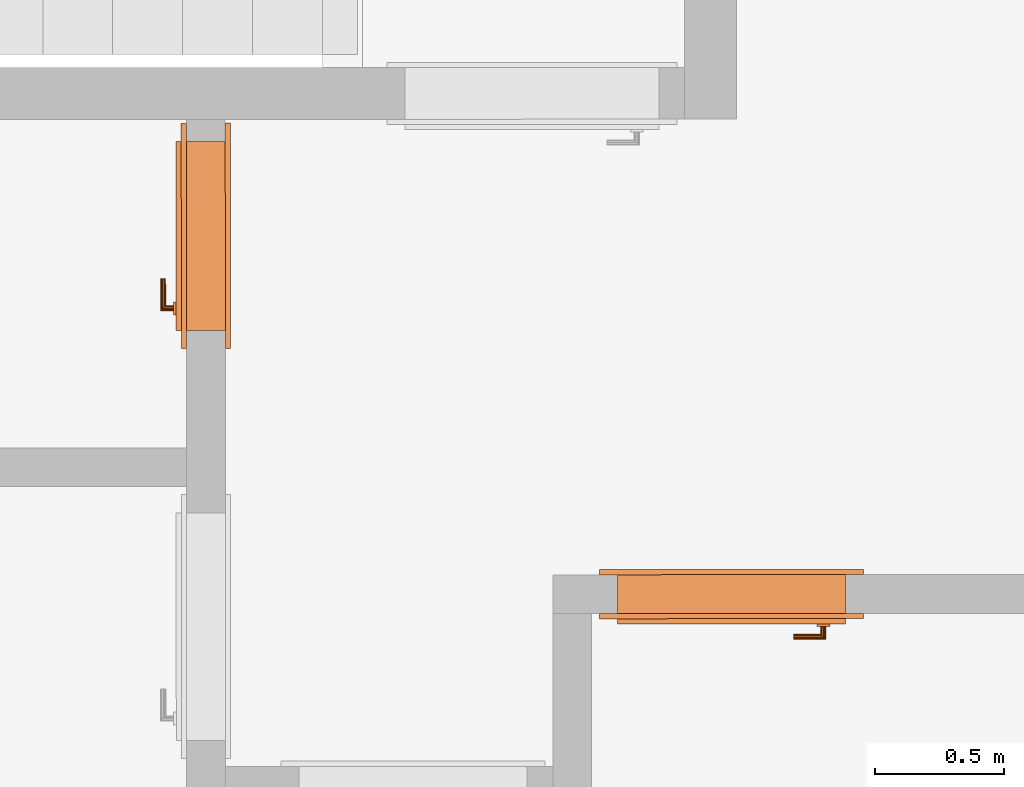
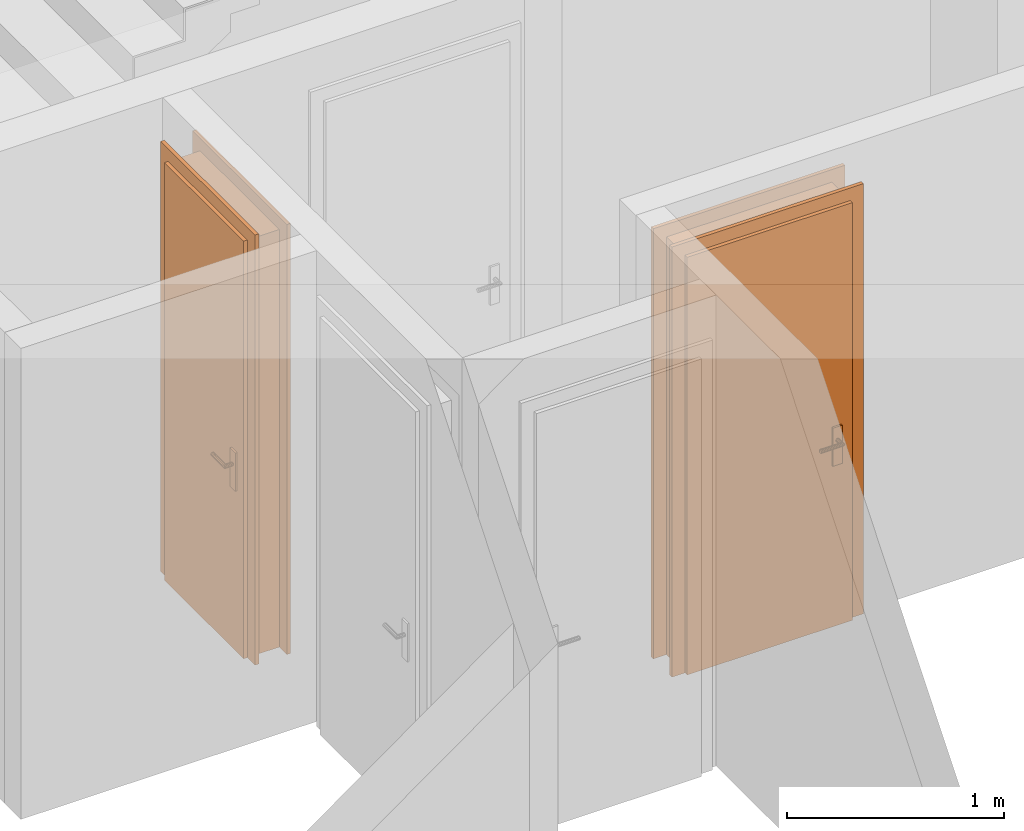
# One storey, part 5 of 9: 2 proxies.
"""IFC2X3 building model written with IfcOpenShell, lengths in metres."""

import ifcopenshell
import ifcopenshell.guid

model = None  # the IFC model being written
_history = None  # IfcOwnerHistory: only IFC2X3 demands one
_inside = {}  # id of a spatial element -> (the spatial element, [elements in it])
_under = {}  # id of a project, library or spatial element -> (it, [spatial elements below it])
_declared = {}  # id of a project -> (the project, [libraries it declares])
_typed = {}  # id of a type object -> (the type object, [elements of that type])
_made_of = {}  # id of a material, layer set ... -> (it, [elements and type objects made of it])


def new_model(schema):
    """Start an empty IFC model of exactly this schema.

    Asked for "IFC4X3", IfcOpenShell would pick the latest addendum, in which some entities
    have other attributes; the version numbers below select the first issue.
    IFC2X3 requires an IfcOwnerHistory on every rooted entity: one is made here for all.
    """
    global model, _history
    if schema == "IFC4X3":
        model = ifcopenshell.file(schema_version=(4, 3, 0, 0))
    else:
        model = ifcopenshell.file(schema=schema)
    _inside.clear()
    _under.clear()
    _declared.clear()
    _typed.clear()
    _made_of.clear()
    _history = None
    if model.schema == "IFC2X3":
        org = make("IfcOrganization", Name="unknown")
        user = make(
            "IfcPersonAndOrganization",
            ThePerson=make("IfcPerson", FamilyName="unknown"),
            TheOrganization=org,
        )
        app = make(
            "IfcApplication",
            ApplicationDeveloper=org,
            Version="unknown",
            ApplicationFullName="unknown",
            ApplicationIdentifier="unknown",
        )
        _history = make(
            "IfcOwnerHistory",
            OwningUser=user,
            OwningApplication=app,
            ChangeAction="ADDED",
            CreationDate=0,
        )
    return model


def make(cls, **values):
    """One entity of the class cls with the attributes given. An attribute that is None is left unset."""
    return model.create_entity(
        cls, **{name: value for name, value in values.items() if value is not None}
    )


def entity(cls, *values):
    """Any entity or typed value of the class cls, its attributes in the order of the schema. None: left unset."""
    e = model.create_entity(cls)
    for i, value in enumerate(values):
        if value is not None:
            e[i] = value
    return e


def rooted(cls, **values):
    """An entity with a GlobalId (a new one), such as an element, a storey or a relation."""
    return make(cls, GlobalId=ifcopenshell.guid.new(), OwnerHistory=_history, **values)


def si_unit(unit_type, name, prefix=None):
    """IfcSIUnit, for example si_unit("LENGTHUNIT", "METRE", prefix="MILLI")."""
    return make("IfcSIUnit", UnitType=unit_type, Prefix=prefix, Name=name)


def converted_unit(unit_type, name, factor, base, dimensions=None, offset=None):
    """IfcConversionBasedUnit, such as the inch: factor (a typed value) times the base unit."""
    return make(
        "IfcConversionBasedUnit"
        if offset is None
        else "IfcConversionBasedUnitWithOffset",
        ConversionOffset=offset,
        Dimensions=None
        if dimensions is None
        else entity("IfcDimensionalExponents", *dimensions),
        UnitType=unit_type,
        Name=name,
        ConversionFactor=make(
            "IfcMeasureWithUnit", ValueComponent=factor, UnitComponent=base
        ),
    )


def derived_unit(unit_type, elements):
    """IfcDerivedUnit: a product of units, each with its exponent."""
    return make(
        "IfcDerivedUnit",
        Elements=[
            make("IfcDerivedUnitElement", Unit=unit, Exponent=power)
            for unit, power in elements
        ],
        UnitType=unit_type,
    )


def assignment(units):
    """IfcUnitAssignment: the units of a project."""
    return None if units is None else make("IfcUnitAssignment", Units=units)


def point(xyz):
    """IfcCartesianPoint."""
    return None if xyz is None else make("IfcCartesianPoint", Coordinates=xyz)


def direction(xyz):
    """IfcDirection."""
    return None if xyz is None else make("IfcDirection", DirectionRatios=xyz)


def frame(location, z_axis=None, x_axis=None):
    """IfcAxis2Placement3D, a coordinate frame: its origin and axes. An axis left out is left unset."""
    return make(
        "IfcAxis2Placement3D",
        Location=point(location),
        Axis=direction(z_axis),
        RefDirection=direction(x_axis),
    )


def origin():
    """The frame at (0, 0, 0) with its axes left unset."""
    return frame((0.0, 0.0, 0.0))


def origin_with_axes():
    """The frame at (0, 0, 0) with the z axis (0, 0, 1) and the x axis (1, 0, 0) written out."""
    return frame((0.0, 0.0, 0.0), z_axis=(0.0, 0.0, 1.0), x_axis=(1.0, 0.0, 0.0))


def place(relative_to, where):
    """IfcLocalPlacement: puts the frame where relative to a parent placement (None: the world)."""
    return make(
        "IfcLocalPlacement", PlacementRelTo=relative_to, RelativePlacement=where
    )


def context(
    kind, dimensions, precision=None, world=None, true_north=None, identifier=None
):
    """IfcGeometricRepresentationContext, for example the 3D "Model" context."""
    return make(
        "IfcGeometricRepresentationContext",
        ContextIdentifier=identifier,
        ContextType=kind,
        CoordinateSpaceDimension=dimensions,
        Precision=precision,
        WorldCoordinateSystem=world,
        TrueNorth=true_north,
    )


def subcontext(parent, identifier, kind, view, scale=None):
    """IfcGeometricRepresentationSubContext, for example "Body" below "Model"."""
    return make(
        "IfcGeometricRepresentationSubContext",
        ContextIdentifier=identifier,
        ContextType=kind,
        ParentContext=parent,
        TargetScale=scale,
        TargetView=view,
    )


def project(units=None, contexts=None):
    """IfcProject with its units and contexts."""
    return rooted(
        "IfcProject",
        Name="project",
        RepresentationContexts=contexts,
        UnitsInContext=assignment(units),
    )


def spatial(cls, under=None, at=None, **own):
    """A site, building, storey or space (cls), placed at a placement, below another one or the project."""
    s = rooted(cls, ObjectPlacement=at, **own)
    if under is not None:
        _under.setdefault(under.id(), (under, []))[1].append(s)
    return s


def faces_of(points, faces, orient=None, outer=None):
    """IfcFace entities. A face is a list of loops; a loop is a list of indices into points, from 0.

    orient and outer hold one flag for each loop. By default every Orientation is true, the
    first loop of a face is its IfcFaceOuterBound and the others are IfcFaceBound.
    """
    made = []
    for i, loops in enumerate(faces):
        bounds = []
        for j, loop in enumerate(loops):
            is_outer = j == 0 if outer is None else outer[i][j]
            bounds.append(
                make(
                    "IfcFaceOuterBound" if is_outer else "IfcFaceBound",
                    Bound=make("IfcPolyLoop", Polygon=[points[k] for k in loop]),
                    Orientation=True if orient is None else orient[i][j],
                )
            )
        made.append(make("IfcFace", Bounds=bounds))
    return made


def faceted_brep(points, faces, orient=None, outer=None, voids=None):
    """IfcFacetedBrep: a solid bounded by flat faces; with voids (closed shells), ...WithVoids."""
    shared = [point(p) for p in points]
    hull = make("IfcClosedShell", CfsFaces=faces_of(shared, faces, orient, outer))
    if voids is None:
        return make("IfcFacetedBrep", Outer=hull)
    return make(
        "IfcFacetedBrepWithVoids",
        Outer=hull,
        Voids=[
            make(cls, CfsFaces=faces_of(shared, fs, o, b)) for cls, fs, o, b in voids
        ],
    )


def shape(context_of_items, identifier, shape_type, items):
    """IfcShapeRepresentation: the items that make up one representation, for example the "Body"."""
    return make(
        "IfcShapeRepresentation",
        ContextOfItems=context_of_items,
        RepresentationIdentifier=identifier,
        RepresentationType=shape_type,
        Items=items,
    )


def source(mapping_origin, context_of_items, identifier, shape_type, items):
    """IfcRepresentationMap: a shape defined once, which mapped items show again and again."""
    return make(
        "IfcRepresentationMap",
        MappingOrigin=mapping_origin,
        MappedRepresentation=shape(context_of_items, identifier, shape_type, items),
    )


def transform(
    local_origin,
    x_axis=None,
    y_axis=None,
    z_axis=None,
    scale=None,
    scale2=None,
    scale3=None,
    uniform=True,
):
    """IfcCartesianTransformationOperator3D, or its non-uniform kind. x_axis, y_axis, z_axis: its Axis1, 2, 3."""
    if uniform:
        return make(
            "IfcCartesianTransformationOperator3D",
            Axis1=direction(x_axis),
            Axis2=direction(y_axis),
            LocalOrigin=point(local_origin),
            Scale=scale,
            Axis3=direction(z_axis),
        )
    return make(
        "IfcCartesianTransformationOperator3DnonUniform",
        Axis1=direction(x_axis),
        Axis2=direction(y_axis),
        LocalOrigin=point(local_origin),
        Scale=scale,
        Axis3=direction(z_axis),
        Scale2=scale2,
        Scale3=scale3,
    )


def mapped(mapping_source, mapping_target):
    """IfcMappedItem: shows the shape of a source again, moved by a transform."""
    return make(
        "IfcMappedItem", MappingSource=mapping_source, MappingTarget=mapping_target
    )


def made_of(thing, what):
    """Note that an element or type object is made of a material, layer set ...; save() writes the relation."""
    if what is not None:
        _made_of.setdefault(what.id(), (what, []))[1].append(thing)
    return thing


def element(
    cls,
    number,
    at=None,
    inside=None,
    cuts=None,
    type_object=None,
    material=None,
    context=None,
    identifier="Body",
    shape_type=None,
    held_by="IfcProductDefinitionShape",
    body=None,
    shapes=None,
    **own,
):
    """One element of the class cls, such as IfcWall. Its Tag is "e" and its number.

    at: its placement. inside: the storey or other place that contains it. cuts: it is an
    opening in that element (IfcRelVoidsElement). A single representation is given by context,
    identifier, shape_type and body (its items); several are given by shapes. held_by: the class
    of the entity that holds the representations. save() writes the other relations.
    """
    e = rooted(cls, Tag="e%d" % number, ObjectPlacement=at, **own)
    if body is not None:
        shapes = [shape(context, identifier, shape_type, body)]
    if shapes is not None:
        e.Representation = make(held_by, Representations=shapes)
    if inside is not None:
        _inside.setdefault(inside.id(), (inside, []))[1].append(e)
    if cuts is not None:
        rooted(
            "IfcRelVoidsElement", RelatingBuildingElement=cuts, RelatedOpeningElement=e
        )
    if type_object is not None:
        _typed.setdefault(type_object.id(), (type_object, []))[1].append(e)
    return made_of(e, material)


def aggregate(whole, parts):
    """IfcRelAggregates: a whole, such as a stair, and the parts it consists of."""
    return rooted("IfcRelAggregates", RelatingObject=whole, RelatedObjects=parts)


def save(model, path):
    """Write the relations noted so far, then the file.

    IfcRelAggregates (storeys below a building ...), IfcRelContainedInSpatialStructure (elements
    in a storey), IfcRelDefinesByType, IfcRelAssociatesMaterial and IfcRelDeclares: one each for
    every whole, place, type object, material and project.
    """
    for whole, parts in _under.values():
        aggregate(whole, parts)
    for where, things in _inside.values():
        rooted(
            "IfcRelContainedInSpatialStructure",
            RelatedElements=things,
            RelatingStructure=where,
        )
    for kind, things in _typed.values():
        rooted("IfcRelDefinesByType", RelatedObjects=things, RelatingType=kind)
    for what, things in _made_of.values():
        rooted("IfcRelAssociatesMaterial", RelatedObjects=things, RelatingMaterial=what)
    for by, libraries in _declared.values():
        rooted("IfcRelDeclares", RelatingContext=by, RelatedDefinitions=libraries)
    model.write(path)


model = new_model("IFC2X3")

# Units and contexts
model_context = context("Model", 3, precision=1e-05, world=origin(), true_north=direction((0.772621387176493, -0.634867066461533)))
body_context = subcontext(model_context, "Body", "Model", "MODEL_VIEW")
ifc_project = project(units=[si_unit("LENGTHUNIT", "METRE"), si_unit("AREAUNIT", "SQUARE_METRE"), si_unit("VOLUMEUNIT", "CUBIC_METRE"), si_unit("MASSUNIT", "GRAM", prefix="KILO"), converted_unit("PLANEANGLEUNIT", "DEGREE", entity("IfcPlaneAngleMeasure", 0.0174532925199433), si_unit("PLANEANGLEUNIT", "RADIAN"), dimensions=[0, 0, 0, 0, 0, 0, 0]), derived_unit("THERMALTRANSMITTANCEUNIT", [(si_unit("POWERUNIT", "WATT"), 1), (si_unit("THERMODYNAMICTEMPERATUREUNIT", "KELVIN"), -1), (si_unit("LENGTHUNIT", "METRE"), -2)]), derived_unit("VOLUMETRICFLOWRATEUNIT", [(si_unit("LENGTHUNIT", "METRE"), 3), (converted_unit("TIMEUNIT", "hour", entity("IfcTimeMeasure", 3600.0), si_unit("TIMEUNIT", "SECOND"), dimensions=[0, 0, 1, 0, 0, 0, 0]), -1), (si_unit("LENGTHUNIT", "METRE"), -1)])], contexts=[model_context])

# Site, building, storey
site_placement = place(None, origin())
site = spatial("IfcSite", under=ifc_project, at=site_placement, Name="Modelle auf dem Nullpunkt", CompositionType="ELEMENT")
building_placement = place(site_placement, origin())
building = spatial("IfcBuilding", under=site, at=building_placement, Name="I", CompositionType="ELEMENT")
storey_placement = place(building_placement, origin())
storey = spatial("IfcBuildingStorey", under=building, at=storey_placement, Name="EG", CompositionType="ELEMENT", Elevation=0.0)

# Proxies
shared_shape_1 = source(origin_with_axes(), body_context, "Body", "Brep", [
    faceted_brep([(0.0700000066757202, 0.190000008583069, 2.35), (0.0700000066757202, 0.190000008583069, 0.0), (0.0900000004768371, 0.190000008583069, 0.0), (0.0900000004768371, 0.190000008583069, 2.35), (0.0700000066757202, 0.0, 0.0), (0.0700000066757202, 0.0, 2.35), (0.0900000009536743, 0.0, 2.35), (0.0900000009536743, 0.0, 0.0)], [[[0, 1, 2, 3]], [[4, 5, 6, 7]], [[1, 0, 5, 4]], [[2, 1, 4, 7]], [[3, 2, 7, 6]], [[0, 3, 6, 5]]], orient=[[False], [False], [False], [False], [False], [False]]),
    faceted_brep([(0.0700000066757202, 0.190000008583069, 2.42), (0.0, 0.190000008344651, 2.42), (0.0, 0.190000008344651, 0.0), (0.0700000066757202, 0.190000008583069, 0.0), (0.0700000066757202, 0.170000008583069, 0.0), (0.0, 0.170000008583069, 0.0), (0.0, 0.170000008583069, 2.42), (0.0700000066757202, 0.170000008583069, 2.42)], [[[0, 1, 2, 3]], [[4, 5, 6, 7]], [[3, 4, 7, 0]], [[2, 5, 4, 3]], [[1, 6, 5, 2]], [[0, 7, 6, 1]]], orient=[[False], [False], [False], [False], [False], [False]]),
    faceted_brep([(0.0700000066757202, 0.02, 2.42), (0.0, 0.0199999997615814, 2.42), (0.0, 0.0199999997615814, 0.0), (0.0700000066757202, 0.02, 0.0), (0.0700000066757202, 0.0, 0.0), (0.0, 0.0, 0.0), (0.0, 0.0, 2.42), (0.0700000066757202, 0.0, 2.42)], [[[0, 1, 2, 3]], [[4, 5, 6, 7]], [[3, 4, 7, 0]], [[2, 5, 4, 3]], [[1, 6, 5, 2]], [[0, 7, 6, 1]]], orient=[[False], [False], [False], [False], [False], [False]]),
    faceted_brep([(0.930000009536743, 0.190000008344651, 2.35), (0.930000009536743, 0.190000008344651, 0.0), (0.950000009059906, 0.190000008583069, 0.0), (0.950000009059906, 0.190000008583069, 2.35), (0.930000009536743, 0.0, 0.0), (0.930000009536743, 0.0, 2.35), (0.950000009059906, 0.0, 2.35), (0.950000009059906, 0.0, 0.0)], [[[0, 1, 2, 3]], [[4, 5, 6, 7]], [[1, 0, 5, 4]], [[2, 1, 4, 7]], [[3, 2, 7, 6]], [[0, 3, 6, 5]]], orient=[[False], [False], [False], [False], [False], [False]]),
    faceted_brep([(0.950000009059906, 0.190000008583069, 2.42), (0.950000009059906, 0.190000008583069, 0.0), (1.02000000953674, 0.190000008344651, 0.0), (1.02000000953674, 0.190000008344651, 2.42), (0.950000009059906, 0.170000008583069, 0.0), (0.950000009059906, 0.170000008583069, 2.42), (1.02000000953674, 0.170000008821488, 2.42), (1.02000000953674, 0.170000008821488, 0.0)], [[[0, 1, 2, 3]], [[4, 5, 6, 7]], [[1, 0, 5, 4]], [[2, 1, 4, 7]], [[3, 2, 7, 6]], [[0, 3, 6, 5]]], orient=[[False], [False], [False], [False], [False], [False]]),
    faceted_brep([(0.950000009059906, 0.0199999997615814, 2.42), (0.950000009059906, 0.0199999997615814, 0.0), (1.02000000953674, 0.0199999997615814, 0.0), (1.02000000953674, 0.0199999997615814, 2.42), (0.950000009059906, 0.0, 0.0), (0.950000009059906, 0.0, 2.42), (1.02000000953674, 0.0, 2.42), (1.02000000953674, 0.0, 0.0)], [[[0, 1, 2, 3]], [[4, 5, 6, 7]], [[1, 0, 5, 4]], [[2, 1, 4, 7]], [[3, 2, 7, 6]], [[0, 3, 6, 5]]], orient=[[False], [False], [False], [False], [False], [False]]),
    faceted_brep([(0.0900000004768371, 0.190000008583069, 2.35), (0.0900000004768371, 0.190000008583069, 2.33), (0.930000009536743, 0.190000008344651, 2.33), (0.930000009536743, 0.190000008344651, 2.35), (0.0900000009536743, 0.0, 2.33), (0.0900000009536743, 0.0, 2.35), (0.930000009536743, 0.0, 2.35), (0.930000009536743, 0.0, 2.33)], [[[0, 1, 2, 3]], [[4, 5, 6, 7]], [[1, 0, 5, 4]], [[2, 1, 4, 7]], [[3, 2, 7, 6]], [[0, 3, 6, 5]]], orient=[[False], [False], [False], [False], [False], [False]]),
    faceted_brep([(0.0700000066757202, 0.190000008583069, 2.42), (0.0700000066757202, 0.190000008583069, 2.35), (0.950000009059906, 0.190000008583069, 2.35), (0.950000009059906, 0.190000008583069, 2.42), (0.0700000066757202, 0.170000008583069, 2.35), (0.0700000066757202, 0.170000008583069, 2.42), (0.950000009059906, 0.170000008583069, 2.42), (0.950000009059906, 0.170000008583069, 2.35)], [[[0, 1, 2, 3]], [[4, 5, 6, 7]], [[1, 0, 5, 4]], [[2, 1, 4, 7]], [[3, 2, 7, 6]], [[0, 3, 6, 5]]], orient=[[False], [False], [False], [False], [False], [False]]),
    faceted_brep([(0.0700000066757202, 0.02, 2.42), (0.0700000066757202, 0.02, 2.35), (0.950000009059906, 0.0199999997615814, 2.35), (0.950000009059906, 0.0199999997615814, 2.42), (0.0700000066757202, 0.0, 2.35), (0.0700000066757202, 0.0, 2.42), (0.950000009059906, 0.0, 2.42), (0.950000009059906, 0.0, 2.35)], [[[0, 1, 2, 3]], [[4, 5, 6, 7]], [[1, 0, 5, 4]], [[2, 1, 4, 7]], [[3, 2, 7, 6]], [[0, 3, 6, 5]]], orient=[[False], [False], [False], [False], [False], [False]]),
    faceted_brep([(0.0700000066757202, 0.210000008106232, 2.35), (0.0700000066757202, 0.210000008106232, 0.0), (0.950000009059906, 0.210000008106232, 0.0), (0.950000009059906, 0.210000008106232, 2.35), (0.0700000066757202, 0.170000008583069, 0.0), (0.0700000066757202, 0.170000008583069, 2.35), (0.950000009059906, 0.170000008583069, 2.35), (0.950000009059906, 0.170000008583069, 0.0)], [[[0, 1, 2, 3]], [[4, 5, 6, 7]], [[1, 0, 5, 4]], [[2, 1, 4, 7]], [[3, 2, 7, 6]], [[0, 3, 6, 5]]], orient=[[False], [False], [False], [False], [False], [False]]),
    faceted_brep([(0.130000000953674, 0.170000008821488, 1.125), (0.130000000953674, 0.170000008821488, 0.91), (0.180000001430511, 0.170000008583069, 0.91), (0.180000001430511, 0.170000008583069, 1.125), (0.130000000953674, 0.160000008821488, 0.91), (0.130000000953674, 0.160000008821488, 1.125), (0.180000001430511, 0.160000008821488, 1.125), (0.180000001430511, 0.160000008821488, 0.91)], [[[0, 1, 2, 3]], [[4, 5, 6, 7]], [[1, 0, 5, 4]], [[2, 1, 4, 7]], [[3, 2, 7, 6]], [[0, 3, 6, 5]]], orient=[[False], [False], [False], [False], [False], [False]]),
    faceted_brep([(0.155000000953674, 0.160000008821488, 1.06), (0.150000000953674, 0.160000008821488, 1.05866025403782), (0.14633974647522, 0.160000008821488, 1.055), (0.145000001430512, 0.160000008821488, 1.05), (0.14633974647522, 0.160000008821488, 1.045), (0.150000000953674, 0.160000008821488, 1.04133974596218), (0.155000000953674, 0.160000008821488, 1.04), (0.160000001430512, 0.160000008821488, 1.04133974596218), (0.163660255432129, 0.160000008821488, 1.045), (0.165000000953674, 0.160000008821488, 1.05), (0.163660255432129, 0.160000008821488, 1.055), (0.160000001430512, 0.160000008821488, 1.05866025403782), (0.155000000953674, 0.120000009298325, 1.06), (0.150000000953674, 0.115000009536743, 1.05866025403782), (0.146339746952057, 0.111339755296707, 1.055), (0.145000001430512, 0.110000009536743, 1.05), (0.146339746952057, 0.111339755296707, 1.045), (0.150000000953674, 0.115000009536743, 1.04133974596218), (0.155000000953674, 0.120000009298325, 1.04), (0.160000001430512, 0.125000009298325, 1.04133974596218), (0.163660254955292, 0.128660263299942, 1.045), (0.165000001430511, 0.130000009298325, 1.05), (0.163660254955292, 0.128660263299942, 1.055), (0.160000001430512, 0.125000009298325, 1.05866025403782), (0.270000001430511, 0.120000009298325, 1.06), (0.270000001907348, 0.125000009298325, 1.05866025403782), (0.270000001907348, 0.128660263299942, 1.055), (0.270000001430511, 0.130000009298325, 1.05), (0.270000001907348, 0.128660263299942, 1.045), (0.270000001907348, 0.125000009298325, 1.04133974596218), (0.270000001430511, 0.120000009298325, 1.04), (0.270000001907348, 0.115000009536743, 1.04133974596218), (0.270000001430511, 0.111339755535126, 1.045), (0.270000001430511, 0.110000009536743, 1.05), (0.270000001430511, 0.111339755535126, 1.055), (0.270000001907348, 0.115000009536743, 1.05866025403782)], [[[0, 1, 2, 3, 4, 5, 6, 7, 8, 9, 10, 11]], [[0, 12, 13, 1]], [[1, 13, 14, 2]], [[2, 14, 15, 3]], [[3, 15, 16, 4]], [[4, 16, 17, 5]], [[5, 17, 18, 6]], [[6, 18, 19, 7]], [[7, 19, 20, 8]], [[8, 20, 21, 9]], [[9, 21, 22, 10]], [[10, 22, 23, 11]], [[11, 23, 12, 0]], [[24, 25, 26, 27, 28, 29, 30, 31, 32, 33, 34, 35]], [[12, 24, 35, 13]], [[13, 35, 34, 14]], [[14, 34, 33, 15]], [[15, 33, 32, 16]], [[16, 32, 31, 17]], [[17, 31, 30, 18]], [[18, 30, 29, 19]], [[19, 29, 28, 20]], [[20, 28, 27, 21]], [[21, 27, 26, 22]], [[22, 26, 25, 23]], [[23, 25, 24, 12]]], orient=[[False], [False], [False], [False], [False], [False], [False], [False], [False], [False], [False], [False], [False], [False], [False], [False], [False], [False], [False], [False], [False], [False], [False], [False], [False], [False]]),
    faceted_brep([(0.130000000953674, 0.210000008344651, 1.125), (0.180000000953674, 0.210000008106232, 1.125), (0.180000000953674, 0.210000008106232, 0.91), (0.130000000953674, 0.210000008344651, 0.91), (0.130000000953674, 0.220000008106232, 0.91), (0.180000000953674, 0.220000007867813, 0.91), (0.180000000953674, 0.220000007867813, 1.125), (0.130000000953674, 0.220000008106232, 1.125)], [[[0, 1, 2, 3]], [[4, 5, 6, 7]], [[3, 4, 7, 0]], [[2, 5, 4, 3]], [[1, 6, 5, 2]], [[0, 7, 6, 1]]], orient=[[False], [False], [False], [False], [False], [False]]),
    faceted_brep([(0.155000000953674, 0.220000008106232, 1.06), (0.160000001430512, 0.220000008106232, 1.05866025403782), (0.163660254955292, 0.220000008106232, 1.055), (0.165000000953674, 0.220000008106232, 1.05), (0.163660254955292, 0.220000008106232, 1.045), (0.160000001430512, 0.220000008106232, 1.04133974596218), (0.155000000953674, 0.220000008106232, 1.04), (0.150000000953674, 0.220000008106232, 1.04133974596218), (0.14633974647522, 0.220000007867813, 1.045), (0.145000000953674, 0.220000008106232, 1.05), (0.14633974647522, 0.220000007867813, 1.055), (0.150000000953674, 0.220000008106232, 1.05866025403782), (0.150000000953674, 0.265000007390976, 1.05866025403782), (0.155000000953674, 0.260000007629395, 1.06), (0.14633974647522, 0.268660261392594, 1.055), (0.145000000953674, 0.270000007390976, 1.05), (0.14633974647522, 0.268660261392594, 1.045), (0.150000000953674, 0.265000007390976, 1.04133974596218), (0.155000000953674, 0.260000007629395, 1.04), (0.160000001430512, 0.255000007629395, 1.04133974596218), (0.163660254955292, 0.251339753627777, 1.045), (0.165000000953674, 0.250000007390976, 1.05), (0.163660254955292, 0.251339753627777, 1.055), (0.160000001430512, 0.255000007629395, 1.05866025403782), (0.270000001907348, 0.260000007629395, 1.06), (0.270000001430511, 0.265000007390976, 1.05866025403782), (0.270000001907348, 0.268660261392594, 1.055), (0.270000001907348, 0.270000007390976, 1.05), (0.270000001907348, 0.268660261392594, 1.045), (0.270000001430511, 0.265000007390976, 1.04133974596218), (0.270000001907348, 0.260000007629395, 1.04), (0.270000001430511, 0.255000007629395, 1.04133974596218), (0.270000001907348, 0.251339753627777, 1.045), (0.270000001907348, 0.250000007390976, 1.05), (0.270000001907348, 0.251339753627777, 1.055), (0.270000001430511, 0.255000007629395, 1.05866025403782)], [[[0, 1, 2, 3, 4, 5, 6, 7, 8, 9, 10, 11]], [[0, 11, 12, 13]], [[11, 10, 14, 12]], [[10, 9, 15, 14]], [[9, 8, 16, 15]], [[8, 7, 17, 16]], [[7, 6, 18, 17]], [[6, 5, 19, 18]], [[5, 4, 20, 19]], [[4, 3, 21, 20]], [[3, 2, 22, 21]], [[2, 1, 23, 22]], [[1, 0, 13, 23]], [[24, 25, 26, 27, 28, 29, 30, 31, 32, 33, 34, 35]], [[13, 12, 25, 24]], [[12, 14, 26, 25]], [[14, 15, 27, 26]], [[15, 16, 28, 27]], [[16, 17, 29, 28]], [[17, 18, 30, 29]], [[18, 19, 31, 30]], [[19, 20, 32, 31]], [[20, 21, 33, 32]], [[21, 22, 34, 33]], [[22, 23, 35, 34]], [[23, 13, 24, 35]]], orient=[[False], [False], [False], [False], [False], [False], [False], [False], [False], [False], [False], [False], [False], [False], [False], [False], [False], [False], [False], [False], [False], [False], [False], [False], [False], [False]]),
])
proxy_1_placement = place(storey_placement, frame((34.7536193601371, -2.59148210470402, 435.89), z_axis=(0.0, 0.0, 1.0), x_axis=(-0.999999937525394, -0.000353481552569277, 0.0)))
element("IfcBuildingElementProxy", 1, at=proxy_1_placement, inside=storey, Name="1flg Weiß UZ außen", context=body_context, shape_type="MappedRepresentation", body=[
    mapped(shared_shape_1, transform((0.0, 0.0, 0.0), x_axis=(1.0, 0.0, 0.0), y_axis=(0.0, 1.0, 0.0), z_axis=(0.0, 0.0, 1.0), scale=1.0)),
])
shared_shape_2 = source(origin_with_axes(), body_context, "Body", "Brep", [
    faceted_brep([(0.0700000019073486, 0.190000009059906, 2.35), (0.0700000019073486, 0.190000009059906, 0.0), (0.0900000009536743, 0.190000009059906, 0.0), (0.0900000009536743, 0.190000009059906, 2.35), (0.0700000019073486, 0.0, 0.0), (0.0700000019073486, 0.0, 2.35), (0.0900000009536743, 0.0, 2.35), (0.0900000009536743, 0.0, 0.0)], [[[0, 1, 2, 3]], [[4, 5, 6, 7]], [[1, 0, 5, 4]], [[2, 1, 4, 7]], [[3, 2, 7, 6]], [[0, 3, 6, 5]]], orient=[[False], [False], [False], [False], [False], [False]]),
    faceted_brep([(0.0700000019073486, 0.190000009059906, 2.42), (0.0, 0.190000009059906, 2.42), (0.0, 0.190000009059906, 0.0), (0.0700000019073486, 0.190000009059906, 0.0), (0.0700000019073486, 0.170000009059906, 0.0), (0.0, 0.170000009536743, 0.0), (0.0, 0.170000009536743, 2.42), (0.0700000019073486, 0.170000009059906, 2.42)], [[[0, 1, 2, 3]], [[4, 5, 6, 7]], [[3, 4, 7, 0]], [[2, 5, 4, 3]], [[1, 6, 5, 2]], [[0, 7, 6, 1]]], orient=[[False], [False], [False], [False], [False], [False]]),
    faceted_brep([(0.0700000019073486, 0.0199999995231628, 2.42), (0.0, 0.02, 2.42), (0.0, 0.02, 0.0), (0.0700000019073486, 0.0199999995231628, 0.0), (0.0700000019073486, 0.0, 0.0), (0.0, 0.0, 0.0), (0.0, 0.0, 2.42), (0.0700000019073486, 0.0, 2.42)], [[[0, 1, 2, 3]], [[4, 5, 6, 7]], [[3, 4, 7, 0]], [[2, 5, 4, 3]], [[1, 6, 5, 2]], [[0, 7, 6, 1]]], orient=[[False], [False], [False], [False], [False], [False]]),
    faceted_brep([(0.780000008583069, 0.190000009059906, 2.35), (0.780000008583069, 0.190000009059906, 0.0), (0.800000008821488, 0.190000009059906, 0.0), (0.800000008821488, 0.190000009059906, 2.35), (0.780000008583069, 0.0, 0.0), (0.780000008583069, 0.0, 2.35), (0.800000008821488, 0.0, 2.35), (0.800000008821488, 0.0, 0.0)], [[[0, 1, 2, 3]], [[4, 5, 6, 7]], [[1, 0, 5, 4]], [[2, 1, 4, 7]], [[3, 2, 7, 6]], [[0, 3, 6, 5]]], orient=[[False], [False], [False], [False], [False], [False]]),
    faceted_brep([(0.800000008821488, 0.190000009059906, 2.42), (0.800000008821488, 0.190000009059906, 0.0), (0.870000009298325, 0.190000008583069, 0.0), (0.870000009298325, 0.190000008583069, 2.42), (0.800000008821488, 0.170000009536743, 0.0), (0.800000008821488, 0.170000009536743, 2.42), (0.870000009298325, 0.170000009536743, 2.42), (0.870000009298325, 0.170000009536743, 0.0)], [[[0, 1, 2, 3]], [[4, 5, 6, 7]], [[1, 0, 5, 4]], [[2, 1, 4, 7]], [[3, 2, 7, 6]], [[0, 3, 6, 5]]], orient=[[False], [False], [False], [False], [False], [False]]),
    faceted_brep([(0.800000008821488, 0.0199999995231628, 2.42), (0.800000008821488, 0.0199999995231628, 0.0), (0.870000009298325, 0.0199999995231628, 0.0), (0.870000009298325, 0.0199999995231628, 2.42), (0.800000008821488, 0.0, 0.0), (0.800000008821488, 0.0, 2.42), (0.870000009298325, 0.0, 2.42), (0.870000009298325, 0.0, 0.0)], [[[0, 1, 2, 3]], [[4, 5, 6, 7]], [[1, 0, 5, 4]], [[2, 1, 4, 7]], [[3, 2, 7, 6]], [[0, 3, 6, 5]]], orient=[[False], [False], [False], [False], [False], [False]]),
    faceted_brep([(0.0900000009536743, 0.190000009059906, 2.35), (0.0900000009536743, 0.190000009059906, 2.33), (0.780000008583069, 0.190000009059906, 2.33), (0.780000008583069, 0.190000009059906, 2.35), (0.0900000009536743, 0.0, 2.33), (0.0900000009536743, 0.0, 2.35), (0.780000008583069, 0.0, 2.35), (0.780000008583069, 0.0, 2.33)], [[[0, 1, 2, 3]], [[4, 5, 6, 7]], [[1, 0, 5, 4]], [[2, 1, 4, 7]], [[3, 2, 7, 6]], [[0, 3, 6, 5]]], orient=[[False], [False], [False], [False], [False], [False]]),
    faceted_brep([(0.0700000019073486, 0.190000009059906, 2.42), (0.0700000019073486, 0.190000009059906, 2.35), (0.800000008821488, 0.190000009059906, 2.35), (0.800000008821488, 0.190000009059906, 2.42), (0.0700000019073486, 0.170000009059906, 2.35), (0.0700000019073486, 0.170000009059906, 2.42), (0.800000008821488, 0.170000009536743, 2.42), (0.800000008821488, 0.170000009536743, 2.35)], [[[0, 1, 2, 3]], [[4, 5, 6, 7]], [[1, 0, 5, 4]], [[2, 1, 4, 7]], [[3, 2, 7, 6]], [[0, 3, 6, 5]]], orient=[[False], [False], [False], [False], [False], [False]]),
    faceted_brep([(0.0700000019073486, 0.0199999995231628, 2.42), (0.0700000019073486, 0.0199999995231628, 2.35), (0.800000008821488, 0.0199999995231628, 2.35), (0.800000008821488, 0.0199999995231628, 2.42), (0.0700000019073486, 0.0, 2.35), (0.0700000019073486, 0.0, 2.42), (0.800000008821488, 0.0, 2.42), (0.800000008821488, 0.0, 2.35)], [[[0, 1, 2, 3]], [[4, 5, 6, 7]], [[1, 0, 5, 4]], [[2, 1, 4, 7]], [[3, 2, 7, 6]], [[0, 3, 6, 5]]], orient=[[False], [False], [False], [False], [False], [False]]),
    faceted_brep([(0.0700000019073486, 0.210000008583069, 2.35), (0.0700000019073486, 0.210000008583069, 0.0), (0.800000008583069, 0.210000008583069, 0.0), (0.800000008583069, 0.210000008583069, 2.35), (0.0700000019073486, 0.170000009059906, 0.0), (0.0700000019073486, 0.170000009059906, 2.35), (0.800000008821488, 0.170000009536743, 2.35), (0.800000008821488, 0.170000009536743, 0.0)], [[[0, 1, 2, 3]], [[4, 5, 6, 7]], [[1, 0, 5, 4]], [[2, 1, 4, 7]], [[3, 2, 7, 6]], [[0, 3, 6, 5]]], orient=[[False], [False], [False], [False], [False], [False]]),
    faceted_brep([(0.130000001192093, 0.170000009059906, 1.125), (0.130000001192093, 0.170000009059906, 0.91), (0.180000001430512, 0.170000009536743, 0.91), (0.180000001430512, 0.170000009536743, 1.125), (0.130000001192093, 0.160000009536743, 0.91), (0.130000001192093, 0.160000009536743, 1.125), (0.180000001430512, 0.160000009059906, 1.125), (0.180000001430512, 0.160000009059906, 0.91)], [[[0, 1, 2, 3]], [[4, 5, 6, 7]], [[1, 0, 5, 4]], [[2, 1, 4, 7]], [[3, 2, 7, 6]], [[0, 3, 6, 5]]], orient=[[False], [False], [False], [False], [False], [False]]),
    faceted_brep([(0.155000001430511, 0.160000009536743, 1.06), (0.150000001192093, 0.160000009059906, 1.05866025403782), (0.146339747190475, 0.160000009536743, 1.055), (0.145000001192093, 0.160000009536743, 1.05), (0.146339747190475, 0.160000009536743, 1.045), (0.150000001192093, 0.160000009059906, 1.04133974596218), (0.155000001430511, 0.160000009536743, 1.04), (0.160000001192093, 0.160000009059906, 1.04133974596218), (0.16366025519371, 0.160000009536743, 1.045), (0.165000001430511, 0.160000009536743, 1.05), (0.16366025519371, 0.160000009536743, 1.055), (0.160000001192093, 0.160000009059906, 1.05866025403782), (0.155000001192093, 0.120000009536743, 1.06), (0.150000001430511, 0.11500001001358, 1.05866025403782), (0.146339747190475, 0.111339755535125, 1.055), (0.145000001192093, 0.110000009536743, 1.05), (0.146339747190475, 0.111339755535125, 1.045), (0.150000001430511, 0.11500001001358, 1.04133974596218), (0.155000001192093, 0.120000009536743, 1.04), (0.160000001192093, 0.125000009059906, 1.04133974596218), (0.163660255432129, 0.12866026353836, 1.045), (0.165000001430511, 0.130000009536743, 1.05), (0.163660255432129, 0.12866026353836, 1.055), (0.160000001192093, 0.125000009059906, 1.05866025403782), (0.270000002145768, 0.120000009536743, 1.06), (0.270000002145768, 0.125000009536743, 1.05866025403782), (0.270000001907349, 0.128660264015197, 1.055), (0.270000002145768, 0.130000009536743, 1.05), (0.270000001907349, 0.128660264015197, 1.045), (0.270000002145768, 0.125000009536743, 1.04133974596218), (0.270000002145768, 0.120000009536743, 1.04), (0.270000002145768, 0.11500001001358, 1.04133974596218), (0.270000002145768, 0.111339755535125, 1.045), (0.270000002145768, 0.110000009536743, 1.05), (0.270000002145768, 0.111339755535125, 1.055), (0.270000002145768, 0.11500001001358, 1.05866025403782)], [[[0, 1, 2, 3, 4, 5, 6, 7, 8, 9, 10, 11]], [[0, 12, 13, 1]], [[1, 13, 14, 2]], [[2, 14, 15, 3]], [[3, 15, 16, 4]], [[4, 16, 17, 5]], [[5, 17, 18, 6]], [[6, 18, 19, 7]], [[7, 19, 20, 8]], [[8, 20, 21, 9]], [[9, 21, 22, 10]], [[10, 22, 23, 11]], [[11, 23, 12, 0]], [[24, 25, 26, 27, 28, 29, 30, 31, 32, 33, 34, 35]], [[12, 24, 35, 13]], [[13, 35, 34, 14]], [[14, 34, 33, 15]], [[15, 33, 32, 16]], [[16, 32, 31, 17]], [[17, 31, 30, 18]], [[18, 30, 29, 19]], [[19, 29, 28, 20]], [[20, 28, 27, 21]], [[21, 27, 26, 22]], [[22, 26, 25, 23]], [[23, 25, 24, 12]]], orient=[[False], [False], [False], [False], [False], [False], [False], [False], [False], [False], [False], [False], [False], [False], [False], [False], [False], [False], [False], [False], [False], [False], [False], [False], [False], [False]]),
    faceted_brep([(0.130000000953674, 0.210000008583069, 1.125), (0.18000000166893, 0.210000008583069, 1.125), (0.18000000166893, 0.210000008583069, 0.91), (0.130000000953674, 0.210000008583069, 0.91), (0.130000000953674, 0.220000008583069, 0.91), (0.18000000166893, 0.220000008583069, 0.91), (0.18000000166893, 0.220000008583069, 1.125), (0.130000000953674, 0.220000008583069, 1.125)], [[[0, 1, 2, 3]], [[4, 5, 6, 7]], [[3, 4, 7, 0]], [[2, 5, 4, 3]], [[1, 6, 5, 2]], [[0, 7, 6, 1]]], orient=[[False], [False], [False], [False], [False], [False]]),
    faceted_brep([(0.155000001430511, 0.220000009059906, 1.06), (0.160000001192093, 0.220000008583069, 1.05866025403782), (0.163660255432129, 0.220000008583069, 1.055), (0.165000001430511, 0.220000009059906, 1.05), (0.163660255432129, 0.220000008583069, 1.045), (0.160000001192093, 0.220000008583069, 1.04133974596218), (0.155000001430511, 0.220000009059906, 1.04), (0.150000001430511, 0.220000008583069, 1.04133974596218), (0.146339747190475, 0.220000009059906, 1.045), (0.145000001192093, 0.220000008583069, 1.05), (0.146339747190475, 0.220000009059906, 1.055), (0.150000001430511, 0.220000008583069, 1.05866025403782), (0.150000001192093, 0.265000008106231, 1.05866025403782), (0.155000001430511, 0.260000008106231, 1.06), (0.146339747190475, 0.268660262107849, 1.055), (0.145000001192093, 0.270000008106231, 1.05), (0.146339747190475, 0.268660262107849, 1.045), (0.150000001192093, 0.265000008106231, 1.04133974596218), (0.155000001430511, 0.260000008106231, 1.04), (0.160000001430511, 0.255000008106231, 1.04133974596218), (0.163660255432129, 0.251339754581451, 1.045), (0.165000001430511, 0.250000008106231, 1.05), (0.163660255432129, 0.251339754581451, 1.055), (0.160000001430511, 0.255000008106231, 1.05866025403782), (0.270000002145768, 0.260000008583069, 1.06), (0.270000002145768, 0.265000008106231, 1.05866025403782), (0.270000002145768, 0.268660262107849, 1.055), (0.270000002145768, 0.270000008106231, 1.05), (0.270000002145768, 0.268660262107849, 1.045), (0.270000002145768, 0.265000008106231, 1.04133974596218), (0.270000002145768, 0.260000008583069, 1.04), (0.270000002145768, 0.255000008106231, 1.04133974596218), (0.270000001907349, 0.251339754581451, 1.045), (0.270000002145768, 0.250000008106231, 1.05), (0.270000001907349, 0.251339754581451, 1.055), (0.270000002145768, 0.255000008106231, 1.05866025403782)], [[[0, 1, 2, 3, 4, 5, 6, 7, 8, 9, 10, 11]], [[0, 11, 12, 13]], [[11, 10, 14, 12]], [[10, 9, 15, 14]], [[9, 8, 16, 15]], [[8, 7, 17, 16]], [[7, 6, 18, 17]], [[6, 5, 19, 18]], [[5, 4, 20, 19]], [[4, 3, 21, 20]], [[3, 2, 22, 21]], [[2, 1, 23, 22]], [[1, 0, 13, 23]], [[24, 25, 26, 27, 28, 29, 30, 31, 32, 33, 34, 35]], [[13, 12, 25, 24]], [[12, 14, 26, 25]], [[14, 15, 27, 26]], [[15, 16, 28, 27]], [[16, 17, 29, 28]], [[17, 18, 30, 29]], [[18, 19, 31, 30]], [[19, 20, 32, 31]], [[20, 21, 33, 32]], [[21, 22, 34, 33]], [[22, 23, 35, 34]], [[23, 13, 24, 35]]], orient=[[False], [False], [False], [False], [False], [False], [False], [False], [False], [False], [False], [False], [False], [False], [False], [False], [False], [False], [False], [False], [False], [False], [False], [False], [False], [False]]),
])
proxy_2_placement = place(storey_placement, frame((32.3083172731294, -1.73734643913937, 435.89), z_axis=(0.0, 0.0, 1.0), x_axis=(-0.000353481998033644, 0.999999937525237, 0.0)))
element("IfcBuildingElementProxy", 2, at=proxy_2_placement, inside=storey, Name="1flg Weiß UZ außen", context=body_context, shape_type="MappedRepresentation", body=[
    mapped(shared_shape_2, transform((0.0, 0.0, 0.0), x_axis=(1.0, 0.0, 0.0), y_axis=(0.0, 1.0, 0.0), z_axis=(0.0, 0.0, 1.0), scale=1.0)),
])

save(model, "model.ifc")
